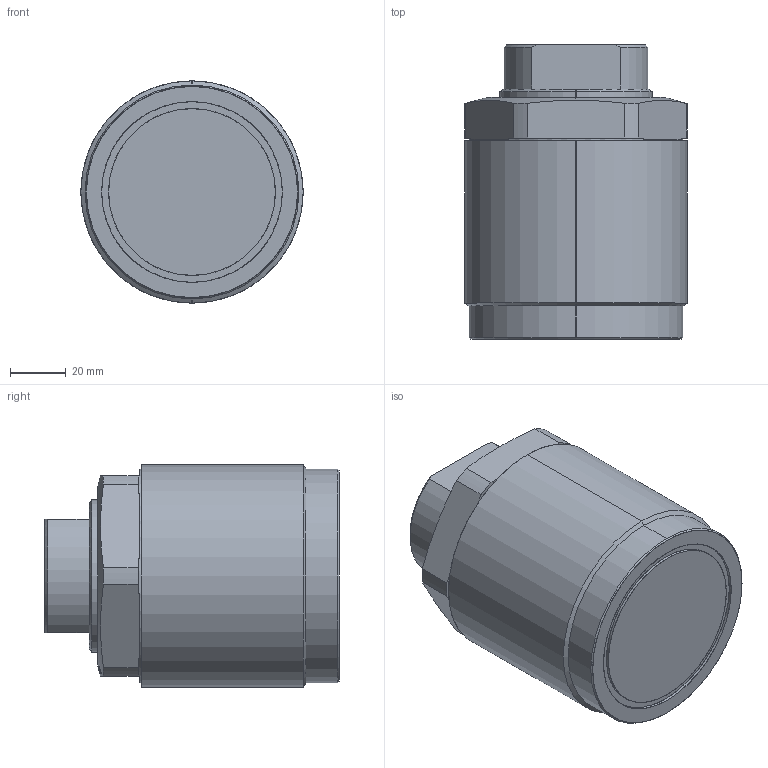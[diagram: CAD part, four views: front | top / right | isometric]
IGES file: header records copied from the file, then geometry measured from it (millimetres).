
Start section: SolidWorks IGES file using analytic representation for surfaces
Global section: file name: D:\karuppas\Clasp\3D model\Thread body cylinder\T03C-M808-M threaded pusher\T03C-M808-M threaded pushe.IGS; native system: SolidWorks 2017; preprocessor: SolidWorks 2017; author: pc; date: 220709.231836; units: millimetre
Bounding box: 80 x 106 x 80 mm (x, y, z)
Surface area: 50930.6 mm2 (no closed solid volume)
Topology: 0 solids, 0 shells, 268 faces, 4256 edges, 4254 vertices
Faces by surface type: bspline 228, revolution 40
